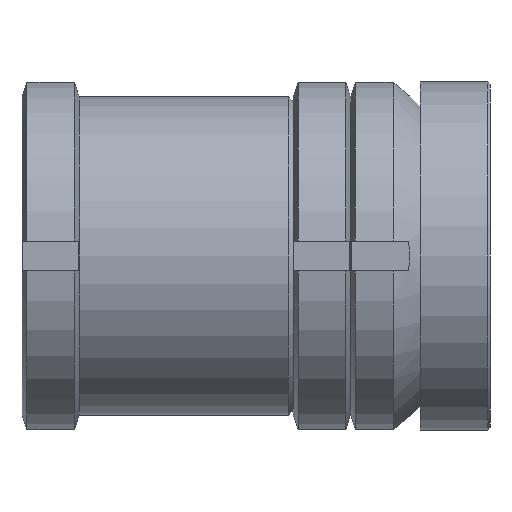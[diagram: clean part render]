
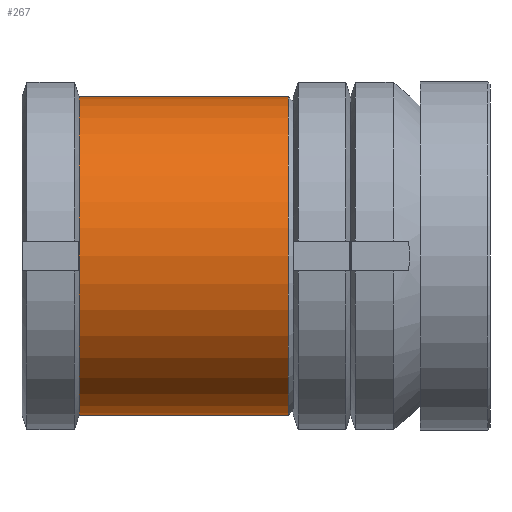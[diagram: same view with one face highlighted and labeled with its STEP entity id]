
A CAD part, front view. The second image highlights one B-rep face of the part: STEP entity #267.
In plain terms, the highlighted cylindrical face has radius 32 mm (diameter 64 mm), a full revolution.
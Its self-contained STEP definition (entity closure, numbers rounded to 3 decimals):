
#267 = ADVANCED_FACE( '', ( #386, #387 ), #388, .T. );
#386 = FACE_OUTER_BOUND( '', #594, .T. );
#387 = FACE_OUTER_BOUND( '', #595, .T. );
#388 = CYLINDRICAL_SURFACE( '', #596, 32. );
#594 = EDGE_LOOP( '', ( #927 ) );
#595 = EDGE_LOOP( '', ( #928 ) );
#596 = AXIS2_PLACEMENT_3D( '', #929, #930, #931 );
#927 = ORIENTED_EDGE( '', *, *, #1375, .F. );
#928 = ORIENTED_EDGE( '', *, *, #1409, .T. );
#929 = CARTESIAN_POINT( '', ( 0., 0., 0. ) );
#930 = DIRECTION( '', ( 0., 1., 0. ) );
#931 = DIRECTION( '', ( 0., 0., -1. ) );
#1375 = EDGE_CURVE( '', #1571, #1571, #1572, .T. );
#1409 = EDGE_CURVE( '', #1624, #1624, #1625, .T. );
#1571 = VERTEX_POINT( '', #1947 );
#1572 = CIRCLE( '', #1948, 32. );
#1624 = VERTEX_POINT( '', #2068 );
#1625 = CIRCLE( '', #2069, 32. );
#1947 = CARTESIAN_POINT( '', ( 0., 11.5, -32. ) );
#1948 = AXIS2_PLACEMENT_3D( '', #2512, #2513, #2514 );
#2068 = CARTESIAN_POINT( '', ( 0., 53.5, -32. ) );
#2069 = AXIS2_PLACEMENT_3D( '', #2553, #2554, #2555 );
#2512 = CARTESIAN_POINT( '', ( 0., 11.5, 0. ) );
#2513 = DIRECTION( '', ( 0., -1., 0. ) );
#2514 = DIRECTION( '', ( 0., 0., -1. ) );
#2553 = CARTESIAN_POINT( '', ( 0., 53.5, 0. ) );
#2554 = DIRECTION( '', ( 0., -1., 0. ) );
#2555 = DIRECTION( '', ( 0., 0., -1. ) );
